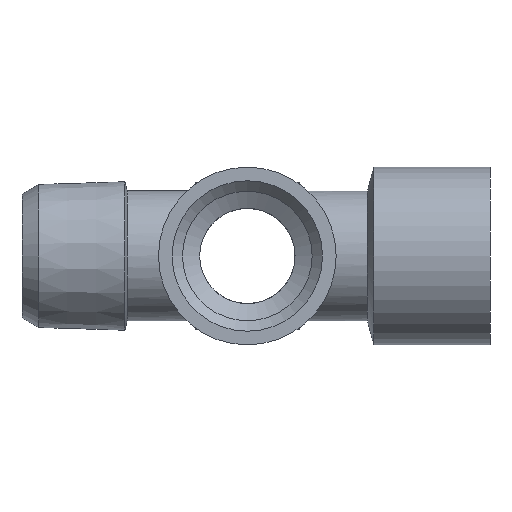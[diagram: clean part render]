
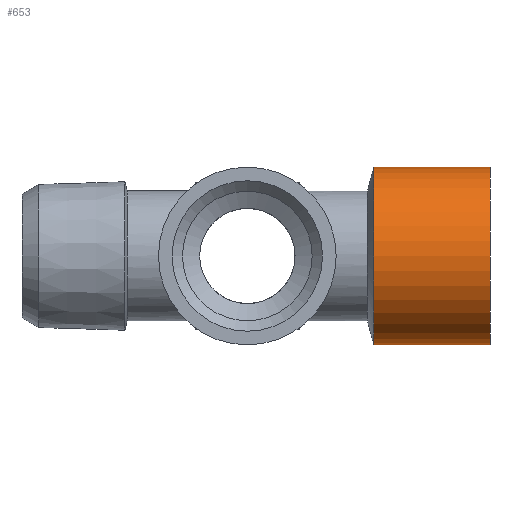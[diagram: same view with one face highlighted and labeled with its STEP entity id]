
A CAD part, left-side view. The second image highlights one B-rep face of the part: STEP entity #653.
In plain terms, the highlighted cylindrical face has radius 10.25 mm (diameter 20.5 mm), a full revolution.
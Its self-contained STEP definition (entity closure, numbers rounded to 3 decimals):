
#100 = CARTESIAN_POINT ( 'NONE',  ( -138.123, -37.532, -35.25 ) ) ;
#124 = CARTESIAN_POINT ( 'NONE',  ( -148.373, -50.934, -25. ) ) ;
#186 = EDGE_CURVE ( 'NONE', #549, #549, #453, .T. ) ;
#187 = EDGE_CURVE ( 'NONE', #551, #551, #449, .T. ) ;
#222 = AXIS2_PLACEMENT_3D ( 'NONE', #744, #746, #743 ) ;
#223 = AXIS2_PLACEMENT_3D ( 'NONE', #742, #740, #738 ) ;
#449 = CIRCLE ( 'NONE', #223, 10.25 ) ;
#453 = CIRCLE ( 'NONE', #222, 10.25 ) ;
#549 = VERTEX_POINT ( 'NONE', #124 ) ;
#551 = VERTEX_POINT ( 'NONE', #100 ) ;
#586 = FACE_OUTER_BOUND ( 'NONE', #1390, .T. ) ;
#589 = CYLINDRICAL_SURFACE ( 'NONE', #672, 10.25 ) ;
#590 = FACE_OUTER_BOUND ( 'NONE', #1447, .T. ) ;
#653 = ADVANCED_FACE ( 'NONE', ( #590, #586 ), #589, .T. ) ;
#672 = AXIS2_PLACEMENT_3D ( 'NONE', #1031, #1030, #1032 ) ;
#738 = DIRECTION ( 'NONE',  ( 0., 0., -1. ) ) ;
#740 = DIRECTION ( 'NONE',  ( 0., -1., 0. ) ) ;
#742 = CARTESIAN_POINT ( 'NONE',  ( -138.123, -37.532, -25. ) ) ;
#743 = DIRECTION ( 'NONE',  ( -1., 0., 0. ) ) ;
#744 = CARTESIAN_POINT ( 'NONE',  ( -138.123, -50.934, -25. ) ) ;
#746 = DIRECTION ( 'NONE',  ( 0., 1., 0. ) ) ;
#1030 = DIRECTION ( 'NONE',  ( 0., 1., 0. ) ) ;
#1031 = CARTESIAN_POINT ( 'NONE',  ( -138.123, -50.934, -25. ) ) ;
#1032 = DIRECTION ( 'NONE',  ( -1., 0., 0. ) ) ;
#1314 = ORIENTED_EDGE ( 'NONE', *, *, #187, .T. ) ;
#1315 = ORIENTED_EDGE ( 'NONE', *, *, #186, .T. ) ;
#1390 = EDGE_LOOP ( 'NONE', ( #1315 ) ) ;
#1447 = EDGE_LOOP ( 'NONE', ( #1314 ) ) ;
